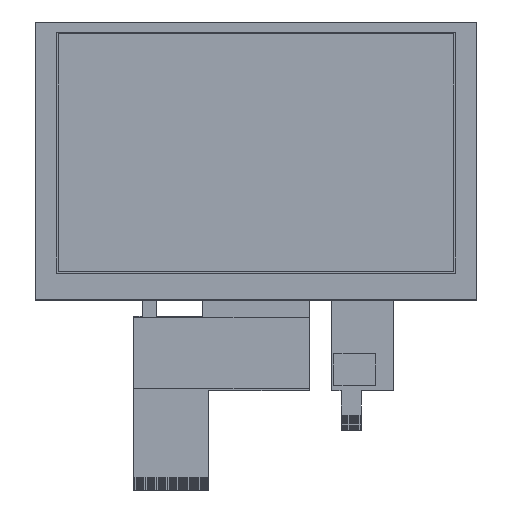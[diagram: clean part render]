
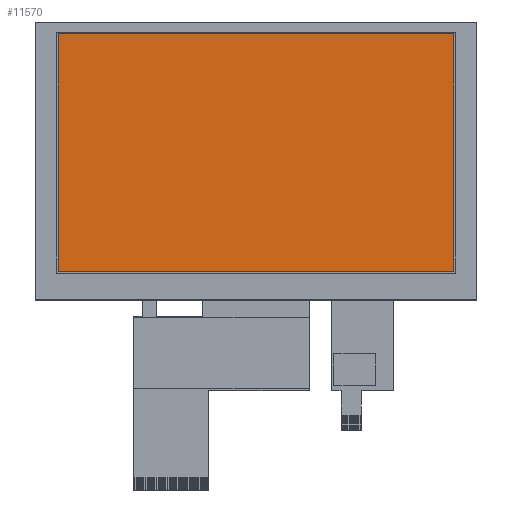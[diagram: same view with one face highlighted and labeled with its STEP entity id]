
A CAD part, top view. The second image highlights one B-rep face of the part: STEP entity #11570.
In plain terms, the highlighted planar face has unit normal (0, 0, 1).
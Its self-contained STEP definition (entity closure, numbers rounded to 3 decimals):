
#822 = VECTOR ( 'NONE', #10339, 1000. ) ;
#1728 = VERTEX_POINT ( 'NONE', #13892 ) ;
#1847 = DIRECTION ( 'NONE',  ( 0., 1., 0. ) ) ;
#2101 = VERTEX_POINT ( 'NONE', #7593 ) ;
#2644 = DIRECTION ( 'NONE',  ( -1., 0., 0. ) ) ;
#2979 = EDGE_LOOP ( 'NONE', ( #7545, #6331, #10104, #5644 ) ) ;
#2982 = EDGE_CURVE ( 'NONE', #13535, #1728, #11157, .T. ) ;
#3608 = LINE ( 'NONE', #13908, #11908 ) ;
#4468 = CARTESIAN_POINT ( 'NONE',  ( 0., 0., 1.1 ) ) ;
#5027 = CARTESIAN_POINT ( 'NONE',  ( 0., -32.4, 1.1 ) ) ;
#5288 = CARTESIAN_POINT ( 'NONE',  ( -54., 0., 1.1 ) ) ;
#5644 = ORIENTED_EDGE ( 'NONE', *, *, #8222, .F. ) ;
#6164 = FACE_OUTER_BOUND ( 'NONE', #2979, .T. ) ;
#6331 = ORIENTED_EDGE ( 'NONE', *, *, #14784, .F. ) ;
#6582 = EDGE_CURVE ( 'NONE', #10396, #2101, #3608, .T. ) ;
#6840 = VECTOR ( 'NONE', #1847, 1000. ) ;
#6861 = LINE ( 'NONE', #5027, #12814 ) ;
#7545 = ORIENTED_EDGE ( 'NONE', *, *, #2982, .F. ) ;
#7593 = CARTESIAN_POINT ( 'NONE',  ( 54., -32.4, 1.1 ) ) ;
#7681 = CARTESIAN_POINT ( 'NONE',  ( 54., 32.4, 1.1 ) ) ;
#7803 = PLANE ( 'NONE',  #14015 ) ;
#8222 = EDGE_CURVE ( 'NONE', #1728, #10396, #13081, .T. ) ;
#8246 = DIRECTION ( 'NONE',  ( 0., -1., 0. ) ) ;
#10104 = ORIENTED_EDGE ( 'NONE', *, *, #6582, .F. ) ;
#10339 = DIRECTION ( 'NONE',  ( 1., 0., 0. ) ) ;
#10396 = VERTEX_POINT ( 'NONE', #7681 ) ;
#11157 = LINE ( 'NONE', #5288, #6840 ) ;
#11570 = ADVANCED_FACE ( 'NONE', ( #6164 ), #7803, .T. ) ;
#11908 = VECTOR ( 'NONE', #8246, 1000. ) ;
#12045 = CARTESIAN_POINT ( 'NONE',  ( -54., -32.4, 1.1 ) ) ;
#12814 = VECTOR ( 'NONE', #2644, 1000. ) ;
#13081 = LINE ( 'NONE', #14879, #822 ) ;
#13535 = VERTEX_POINT ( 'NONE', #12045 ) ;
#13648 = DIRECTION ( 'NONE',  ( 1., 0., 0. ) ) ;
#13892 = CARTESIAN_POINT ( 'NONE',  ( -54., 32.4, 1.1 ) ) ;
#13908 = CARTESIAN_POINT ( 'NONE',  ( 54., 0., 1.1 ) ) ;
#14015 = AXIS2_PLACEMENT_3D ( 'NONE', #4468, #14782, #13648 ) ;
#14782 = DIRECTION ( 'NONE',  ( 0., 0., 1. ) ) ;
#14784 = EDGE_CURVE ( 'NONE', #2101, #13535, #6861, .T. ) ;
#14879 = CARTESIAN_POINT ( 'NONE',  ( 0., 32.4, 1.1 ) ) ;
